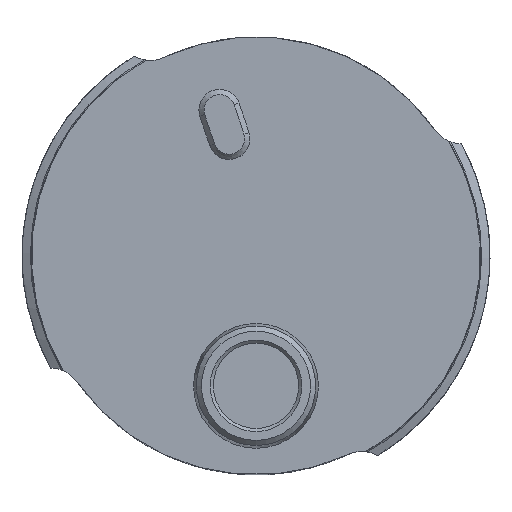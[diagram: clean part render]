
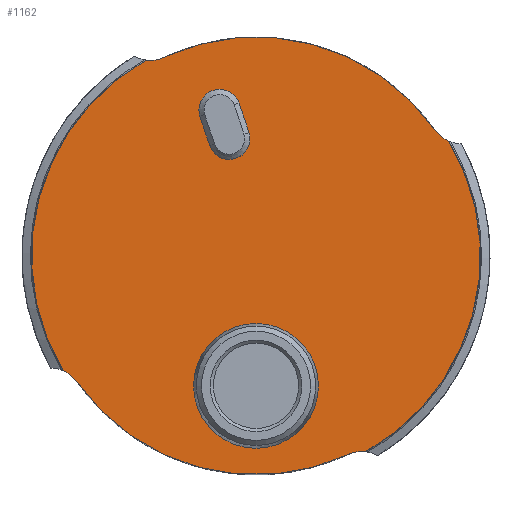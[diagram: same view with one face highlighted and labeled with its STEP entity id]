
A CAD part, top view. The second image highlights one B-rep face of the part: STEP entity #1162.
In plain terms, the highlighted planar face has unit normal (0, 0, 1).
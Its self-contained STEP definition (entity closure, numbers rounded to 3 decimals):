
#217=FACE_BOUND('',#362,.T.);
#218=FACE_BOUND('',#363,.T.);
#219=FACE_BOUND('',#364,.T.);
#362=EDGE_LOOP('',(#968,#969,#970,#971));
#363=EDGE_LOOP('',(#972));
#364=EDGE_LOOP('',(#973,#974,#975,#976,#977,#978,#979,#980));
#405=CIRCLE('',#1202,1.985);
#406=CIRCLE('',#1204,75.008);
#407=CIRCLE('',#1207,1.985);
#408=CIRCLE('',#1209,75.008);
#411=CIRCLE('',#1216,3.);
#414=CIRCLE('',#1220,3.);
#416=CIRCLE('',#1223,21.05);
#418=CIRCLE('',#1226,3.);
#420=CIRCLE('',#1229,21.05);
#421=CIRCLE('',#1231,3.);
#424=CIRCLE('',#1242,21.58);
#425=CIRCLE('',#1244,6.);
#431=CIRCLE('',#1256,21.58);
#458=VERTEX_POINT('',#1561);
#459=VERTEX_POINT('',#1563);
#460=VERTEX_POINT('',#1567);
#461=VERTEX_POINT('',#1572);
#485=VERTEX_POINT('',#1816);
#486=VERTEX_POINT('',#1818);
#490=VERTEX_POINT('',#1881);
#491=VERTEX_POINT('',#1883);
#506=VERTEX_POINT('',#2059);
#507=VERTEX_POINT('',#2061);
#521=VERTEX_POINT('',#2221);
#535=VERTEX_POINT('',#2381);
#537=VERTEX_POINT('',#3227);
#574=EDGE_CURVE('',#459,#458,#405,.T.);
#577=EDGE_CURVE('',#458,#460,#406,.T.);
#579=EDGE_CURVE('',#460,#461,#407,.T.);
#580=EDGE_CURVE('',#461,#459,#408,.T.);
#605=EDGE_CURVE('',#486,#485,#411,.T.);
#612=EDGE_CURVE('',#491,#490,#414,.T.);
#628=EDGE_CURVE('',#490,#486,#416,.T.);
#631=EDGE_CURVE('',#507,#506,#418,.T.);
#647=EDGE_CURVE('',#506,#521,#420,.T.);
#662=EDGE_CURVE('',#521,#535,#421,.T.);
#688=EDGE_CURVE('',#535,#491,#424,.T.);
#691=EDGE_CURVE('',#537,#537,#425,.T.);
#697=EDGE_CURVE('',#485,#507,#431,.T.);
#968=ORIENTED_EDGE('',*,*,#574,.T.);
#969=ORIENTED_EDGE('',*,*,#577,.T.);
#970=ORIENTED_EDGE('',*,*,#579,.T.);
#971=ORIENTED_EDGE('',*,*,#580,.T.);
#972=ORIENTED_EDGE('',*,*,#691,.T.);
#973=ORIENTED_EDGE('',*,*,#605,.T.);
#974=ORIENTED_EDGE('',*,*,#697,.T.);
#975=ORIENTED_EDGE('',*,*,#631,.T.);
#976=ORIENTED_EDGE('',*,*,#647,.T.);
#977=ORIENTED_EDGE('',*,*,#662,.T.);
#978=ORIENTED_EDGE('',*,*,#688,.T.);
#979=ORIENTED_EDGE('',*,*,#612,.T.);
#980=ORIENTED_EDGE('',*,*,#628,.T.);
#1031=PLANE('',#1255);
#1162=ADVANCED_FACE('',(#217,#218,#219),#1031,.T.);
#1202=AXIS2_PLACEMENT_3D('',#1564,#1330,#1331);
#1204=AXIS2_PLACEMENT_3D('',#1569,#1336,#1337);
#1207=AXIS2_PLACEMENT_3D('',#1574,#1343,#1344);
#1209=AXIS2_PLACEMENT_3D('',#1576,#1347,#1348);
#1216=AXIS2_PLACEMENT_3D('',#1819,#1369,#1370);
#1220=AXIS2_PLACEMENT_3D('',#1884,#1379,#1380);
#1223=AXIS2_PLACEMENT_3D('',#2055,#1389,#1390);
#1226=AXIS2_PLACEMENT_3D('',#2062,#1396,#1397);
#1229=AXIS2_PLACEMENT_3D('',#2223,#1407,#1408);
#1231=AXIS2_PLACEMENT_3D('',#2383,#1415,#1416);
#1242=AXIS2_PLACEMENT_3D('',#2900,#1437,#1438);
#1244=AXIS2_PLACEMENT_3D('',#3228,#1441,#1442);
#1255=AXIS2_PLACEMENT_3D('',#3244,#1463,#1464);
#1256=AXIS2_PLACEMENT_3D('',#3245,#1465,#1466);
#1330=DIRECTION('center_axis',(0.,0.,
-1.));
#1331=DIRECTION('ref_axis',(0.942,0.337,0.));
#1336=DIRECTION('center_axis',(0.,0.,
-1.));
#1337=DIRECTION('ref_axis',(0.954,0.299,0.));
#1343=DIRECTION('center_axis',(0.,0.,
-1.));
#1344=DIRECTION('ref_axis',(-0.942,-0.337,0.));
#1347=DIRECTION('center_axis',(0.,0.,
-1.));
#1348=DIRECTION('ref_axis',(-0.954,-0.299,0.));
#1369=DIRECTION('center_axis',(0.,0.,
-1.));
#1370=DIRECTION('ref_axis',(0.423,-0.906,0.));
#1379=DIRECTION('center_axis',(0.,0.,
-1.));
#1380=DIRECTION('ref_axis',(0.819,0.574,0.));
#1389=DIRECTION('center_axis',(0.,0.,
1.));
#1390=DIRECTION('ref_axis',(-0.031,-1.,0.));
#1396=DIRECTION('center_axis',(0.,0.,
-1.));
#1397=DIRECTION('ref_axis',(-0.819,-0.574,0.));
#1407=DIRECTION('center_axis',(0.,0.,
1.));
#1408=DIRECTION('ref_axis',(-0.031,-1.,0.));
#1415=DIRECTION('center_axis',(0.,0.,
-1.));
#1416=DIRECTION('ref_axis',(-0.423,0.906,0.));
#1437=DIRECTION('center_axis',(0.,0.,
1.));
#1438=DIRECTION('ref_axis',(0.,1.,0.));
#1441=DIRECTION('center_axis',(0.,0.,
-1.));
#1442=DIRECTION('ref_axis',(0.,1.,0.));
#1463=DIRECTION('center_axis',(0.,0.,
1.));
#1464=DIRECTION('ref_axis',(0.,1.,0.));
#1465=DIRECTION('center_axis',(0.,0.,
1.));
#1466=DIRECTION('ref_axis',(0.,1.,0.));
#1561=CARTESIAN_POINT('',(-1.633,14.693,0.));
#1563=CARTESIAN_POINT('',(-5.397,13.432,0.));
#1564=CARTESIAN_POINT('Origin',(-3.503,14.025,0.));
#1567=CARTESIAN_POINT('',(-0.68,11.848,0.));
#1569=CARTESIAN_POINT('Origin',(-72.266,-10.548,0.));
#1572=CARTESIAN_POINT('',(-4.445,10.587,0.));
#1574=CARTESIAN_POINT('Origin',(-2.575,11.255,0.));
#1576=CARTESIAN_POINT('Origin',(66.188,35.828,0.));
#1816=CARTESIAN_POINT('',(10.555,-18.822,0.));
#1818=CARTESIAN_POINT('',(8.896,-19.078,0.));
#1819=CARTESIAN_POINT('Origin',(10.164,-21.797,0.));
#1881=CARTESIAN_POINT('',(-17.243,-12.074,0.));
#1883=CARTESIAN_POINT('',(-18.552,-11.023,0.));
#1884=CARTESIAN_POINT('Origin',(-19.701,-13.795,0.));
#2055=CARTESIAN_POINT('Origin',(0.,0.,
0.));
#2059=CARTESIAN_POINT('',(17.243,12.074,0.));
#2061=CARTESIAN_POINT('',(18.552,11.023,0.));
#2062=CARTESIAN_POINT('Origin',(19.701,13.795,0.));
#2221=CARTESIAN_POINT('',(-8.896,19.078,0.));
#2223=CARTESIAN_POINT('Origin',(0.,0.,
0.));
#2381=CARTESIAN_POINT('',(-10.555,18.822,0.));
#2383=CARTESIAN_POINT('Origin',(-10.164,21.797,0.));
#2900=CARTESIAN_POINT('Origin',(0.,0.,
0.));
#3227=CARTESIAN_POINT('',(0.,-6.5,0.));
#3228=CARTESIAN_POINT('Origin',(0.,-12.5,
0.));
#3244=CARTESIAN_POINT('Origin',(0.,11.15,0.));
#3245=CARTESIAN_POINT('Origin',(0.,0.,
0.));
